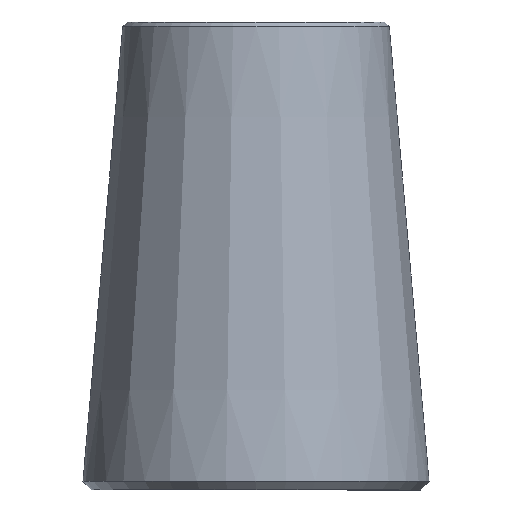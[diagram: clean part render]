
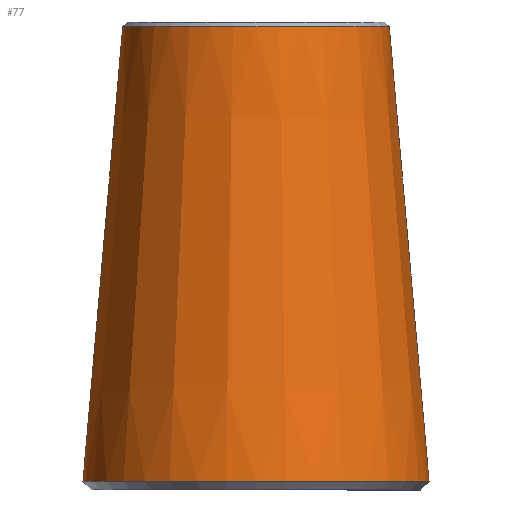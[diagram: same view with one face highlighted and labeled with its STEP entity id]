
A CAD part, left-side view. The second image highlights one B-rep face of the part: STEP entity #77.
In plain terms, the highlighted conical face has half-angle 5 degrees and reference radius 34.407 mm.
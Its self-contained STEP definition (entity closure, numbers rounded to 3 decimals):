
#20=FACE_BOUND('',#34,.T.);
#25=FACE_OUTER_BOUND('',#33,.T.);
#33=EDGE_LOOP('',(#63));
#34=EDGE_LOOP('',(#64));
#44=CIRCLE('',#87,38.826);
#45=CIRCLE('',#89,29.901);
#50=VERTEX_POINT('',#130);
#51=VERTEX_POINT('',#133);
#56=EDGE_CURVE('',#50,#50,#44,.T.);
#57=EDGE_CURVE('',#51,#51,#45,.T.);
#63=ORIENTED_EDGE('',*,*,#57,.F.);
#64=ORIENTED_EDGE('',*,*,#56,.F.);
#74=CONICAL_SURFACE('',#88,34.407,5.);
#77=ADVANCED_FACE('',(#25,#20),#74,.T.);
#87=AXIS2_PLACEMENT_3D('',#131,#104,#105);
#88=AXIS2_PLACEMENT_3D('',#132,#106,#107);
#89=AXIS2_PLACEMENT_3D('',#134,#108,#109);
#104=DIRECTION('center_axis',(0.,0.,
-1.));
#105=DIRECTION('ref_axis',(0.,1.,0.));
#106=DIRECTION('center_axis',(0.,0.,-1.));
#107=DIRECTION('ref_axis',(0.,-1.,0.));
#108=DIRECTION('center_axis',(0.,0.,1.));
#109=DIRECTION('ref_axis',(0.,1.,0.));
#130=CARTESIAN_POINT('',(0.,-38.826,1.992));
#131=CARTESIAN_POINT('Origin',(0.,0.,
1.992));
#132=CARTESIAN_POINT('Origin',(0.,0.,52.5));
#133=CARTESIAN_POINT('',(0.,-29.901,104.004));
#134=CARTESIAN_POINT('Origin',(0.,0.,
104.004));
